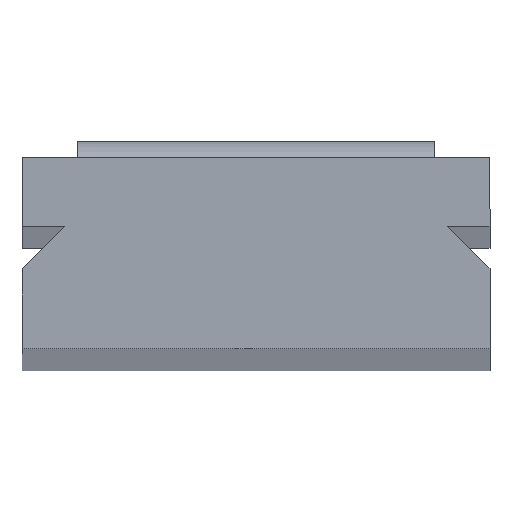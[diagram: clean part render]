
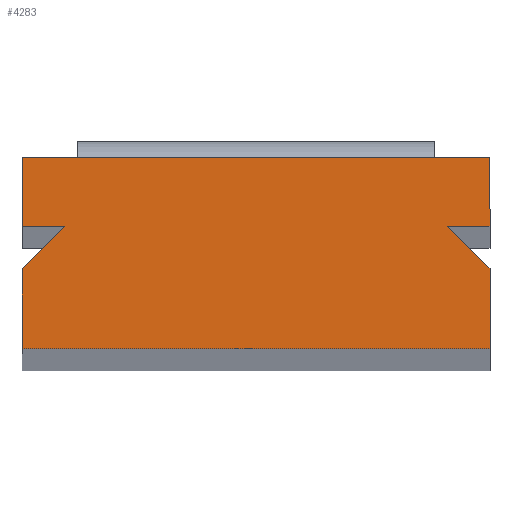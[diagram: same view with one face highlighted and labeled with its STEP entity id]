
A CAD part, top view. The second image highlights one B-rep face of the part: STEP entity #4283.
In plain terms, the highlighted planar face has unit normal (0, 0, 1).
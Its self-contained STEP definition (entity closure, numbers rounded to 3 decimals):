
#23 = ORIENTED_EDGE ( 'NONE', *, *, #8119, .T. ) ;
#94 = VERTEX_POINT ( 'NONE', #3771 ) ;
#175 = CARTESIAN_POINT ( 'NONE',  ( 44., 23., 20. ) ) ;
#317 = EDGE_CURVE ( 'NONE', #94, #8621, #2135, .T. ) ;
#424 = LINE ( 'NONE', #3720, #1776 ) ;
#439 = DIRECTION ( 'NONE',  ( -1., 0., 0. ) ) ;
#585 = DIRECTION ( 'NONE',  ( 0., 0., -1. ) ) ;
#865 = DIRECTION ( 'NONE',  ( 1., 0., 0. ) ) ;
#912 = ORIENTED_EDGE ( 'NONE', *, *, #3109, .T. ) ;
#949 = VECTOR ( 'NONE', #7471, 1000. ) ;
#1130 = FACE_OUTER_BOUND ( 'NONE', #1572, .T. ) ;
#1196 = VERTEX_POINT ( 'NONE', #9295 ) ;
#1272 = CARTESIAN_POINT ( 'NONE',  ( 0., 0., 20. ) ) ;
#1512 = CARTESIAN_POINT ( 'NONE',  ( 44., 0., 20. ) ) ;
#1528 = CARTESIAN_POINT ( 'NONE',  ( 44., 23., 20. ) ) ;
#1572 = EDGE_LOOP ( 'NONE', ( #3591, #23, #7694, #6785, #4580, #7267, #912, #6505, #3525, #6387 ) ) ;
#1758 = LINE ( 'NONE', #6351, #6217 ) ;
#1776 = VECTOR ( 'NONE', #5989, 1000. ) ;
#1852 = DIRECTION ( 'NONE',  ( 0., 1., 0. ) ) ;
#2041 = VECTOR ( 'NONE', #5321, 1000. ) ;
#2056 = VECTOR ( 'NONE', #865, 1000. ) ;
#2135 = LINE ( 'NONE', #8303, #8373 ) ;
#2256 = EDGE_CURVE ( 'NONE', #7695, #1196, #6649, .T. ) ;
#2276 = DIRECTION ( 'NONE',  ( 0., -1., 0. ) ) ;
#2559 = CARTESIAN_POINT ( 'NONE',  ( 44., 0., 20. ) ) ;
#2825 = VECTOR ( 'NONE', #9555, 1000. ) ;
#2880 = VERTEX_POINT ( 'NONE', #5628 ) ;
#3062 = CARTESIAN_POINT ( 'NONE',  ( -44., 36., 20. ) ) ;
#3109 = EDGE_CURVE ( 'NONE', #3269, #5006, #3696, .T. ) ;
#3247 = CARTESIAN_POINT ( 'NONE',  ( 44., 36., 20. ) ) ;
#3269 = VERTEX_POINT ( 'NONE', #3247 ) ;
#3525 = ORIENTED_EDGE ( 'NONE', *, *, #317, .T. ) ;
#3591 = ORIENTED_EDGE ( 'NONE', *, *, #6923, .T. ) ;
#3634 = CARTESIAN_POINT ( 'NONE',  ( 44., 15., 20. ) ) ;
#3696 = LINE ( 'NONE', #4381, #7884 ) ;
#3720 = CARTESIAN_POINT ( 'NONE',  ( -44., 0., 20. ) ) ;
#3771 = CARTESIAN_POINT ( 'NONE',  ( -44., 23., 20. ) ) ;
#3934 = AXIS2_PLACEMENT_3D ( 'NONE', #1272, #585, #439 ) ;
#4060 = EDGE_CURVE ( 'NONE', #8621, #2880, #5938, .T. ) ;
#4080 = CARTESIAN_POINT ( 'NONE',  ( 36., 23., 20. ) ) ;
#4172 = VERTEX_POINT ( 'NONE', #4080 ) ;
#4283 = ADVANCED_FACE ( 'NONE', ( #1130 ), #4329, .F. ) ;
#4329 = PLANE ( 'NONE',  #3934 ) ;
#4381 = CARTESIAN_POINT ( 'NONE',  ( 44., 36., 20. ) ) ;
#4433 = EDGE_CURVE ( 'NONE', #1196, #4172, #8138, .T. ) ;
#4481 = VECTOR ( 'NONE', #9451, 1000. ) ;
#4580 = ORIENTED_EDGE ( 'NONE', *, *, #4993, .T. ) ;
#4993 = EDGE_CURVE ( 'NONE', #4172, #7352, #9294, .T. ) ;
#5006 = VERTEX_POINT ( 'NONE', #6839 ) ;
#5321 = DIRECTION ( 'NONE',  ( -0.707, 0.707, 0. ) ) ;
#5339 = DIRECTION ( 'NONE',  ( 1., 0., 0. ) ) ;
#5570 = VECTOR ( 'NONE', #2276, 1000. ) ;
#5628 = CARTESIAN_POINT ( 'NONE',  ( -44., 15., 20. ) ) ;
#5684 = LINE ( 'NONE', #3062, #5570 ) ;
#5938 = LINE ( 'NONE', #8946, #949 ) ;
#5989 = DIRECTION ( 'NONE',  ( 0., -1., 0. ) ) ;
#6217 = VECTOR ( 'NONE', #1852, 1000. ) ;
#6351 = CARTESIAN_POINT ( 'NONE',  ( 44., 36., 20. ) ) ;
#6387 = ORIENTED_EDGE ( 'NONE', *, *, #4060, .T. ) ;
#6505 = ORIENTED_EDGE ( 'NONE', *, *, #7342, .T. ) ;
#6649 = LINE ( 'NONE', #1512, #2825 ) ;
#6716 = DIRECTION ( 'NONE',  ( -1., 0., 0. ) ) ;
#6785 = ORIENTED_EDGE ( 'NONE', *, *, #4433, .T. ) ;
#6839 = CARTESIAN_POINT ( 'NONE',  ( -44., 36., 20. ) ) ;
#6923 = EDGE_CURVE ( 'NONE', #2880, #9719, #424, .T. ) ;
#7095 = LINE ( 'NONE', #8772, #4481 ) ;
#7267 = ORIENTED_EDGE ( 'NONE', *, *, #9693, .T. ) ;
#7342 = EDGE_CURVE ( 'NONE', #5006, #94, #5684, .T. ) ;
#7352 = VERTEX_POINT ( 'NONE', #1528 ) ;
#7468 = CARTESIAN_POINT ( 'NONE',  ( -36., 23., 20. ) ) ;
#7471 = DIRECTION ( 'NONE',  ( -0.707, -0.707, 0. ) ) ;
#7694 = ORIENTED_EDGE ( 'NONE', *, *, #2256, .T. ) ;
#7695 = VERTEX_POINT ( 'NONE', #2559 ) ;
#7884 = VECTOR ( 'NONE', #6716, 1000. ) ;
#7926 = CARTESIAN_POINT ( 'NONE',  ( -44., 0., 20. ) ) ;
#8119 = EDGE_CURVE ( 'NONE', #9719, #7695, #7095, .T. ) ;
#8138 = LINE ( 'NONE', #3634, #2041 ) ;
#8303 = CARTESIAN_POINT ( 'NONE',  ( -44., 23., 20. ) ) ;
#8373 = VECTOR ( 'NONE', #5339, 1000. ) ;
#8621 = VERTEX_POINT ( 'NONE', #7468 ) ;
#8772 = CARTESIAN_POINT ( 'NONE',  ( -44., 0., 20. ) ) ;
#8946 = CARTESIAN_POINT ( 'NONE',  ( -44., 15., 20. ) ) ;
#9294 = LINE ( 'NONE', #175, #2056 ) ;
#9295 = CARTESIAN_POINT ( 'NONE',  ( 44., 15., 20. ) ) ;
#9451 = DIRECTION ( 'NONE',  ( 1., 0., 0. ) ) ;
#9555 = DIRECTION ( 'NONE',  ( 0., 1., 0. ) ) ;
#9693 = EDGE_CURVE ( 'NONE', #7352, #3269, #1758, .T. ) ;
#9719 = VERTEX_POINT ( 'NONE', #7926 ) ;
